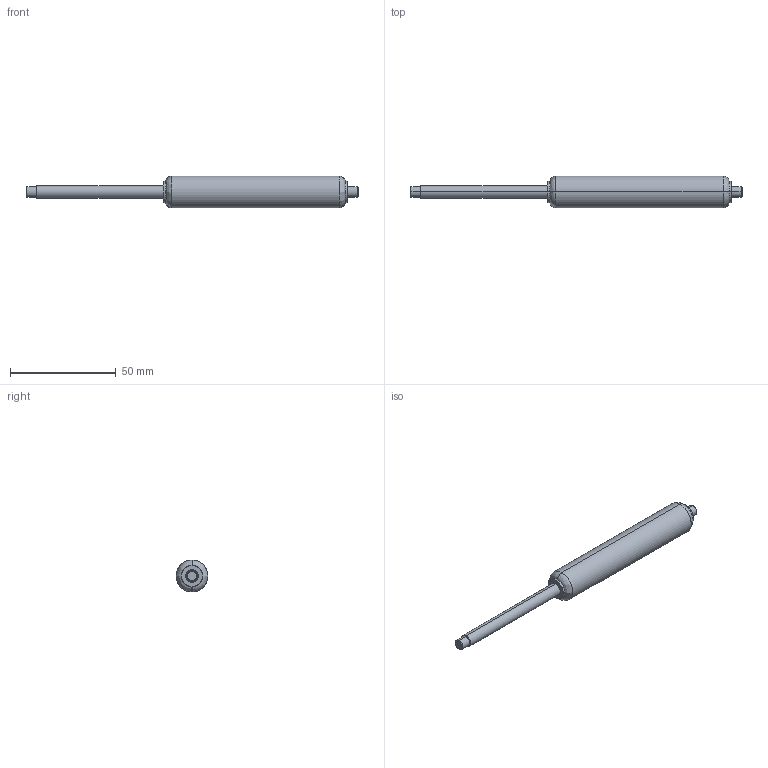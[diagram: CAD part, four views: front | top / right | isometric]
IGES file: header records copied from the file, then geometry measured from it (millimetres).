
Start section: SolidWorks IGES file using analytic representation for surfaces
Bounding box: 157 x 15 x 15 mm (x, y, z)
Surface area: 5576.5 mm2 (no closed solid volume)
Topology: 0 solids, 0 shells, 25 faces, 336 edges, 336 vertices
Faces by surface type: revolution 16, bspline 9
